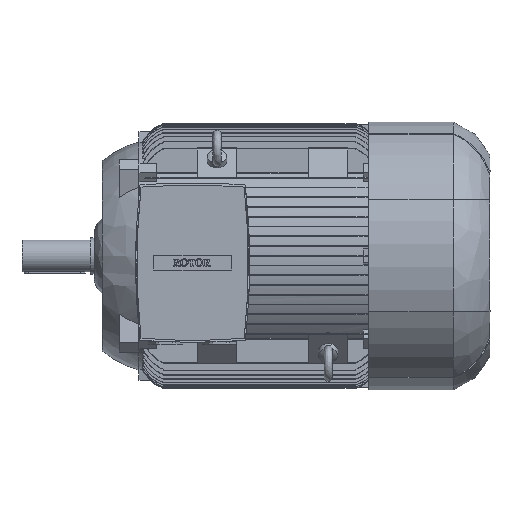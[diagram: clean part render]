
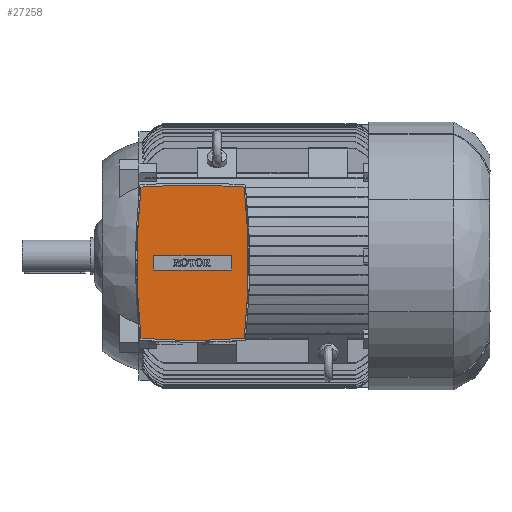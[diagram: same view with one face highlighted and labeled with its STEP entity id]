
A CAD part, top view. The second image highlights one B-rep face of the part: STEP entity #27258.
In plain terms, the highlighted planar face has unit normal (0, 0, 1).
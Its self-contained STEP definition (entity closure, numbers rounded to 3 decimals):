
#1411 = EDGE_CURVE ( 'NONE', #35650, #35641, #18320, .T. ) ;
#1427 = EDGE_CURVE ( 'NONE', #35646, #35649, #18353, .T. ) ;
#1429 = EDGE_CURVE ( 'NONE', #35647, #35646, #18355, .T. ) ;
#2347 = AXIS2_PLACEMENT_3D ( 'NONE', #24885, #24886, #24887 ) ;
#4457 = ORIENTED_EDGE ( 'NONE', *, *, #1427, .T. ) ;
#4512 = ORIENTED_EDGE ( 'NONE', *, *, #1411, .F. ) ;
#4614 = ORIENTED_EDGE ( 'NONE', *, *, #26357, .T. ) ;
#4615 = ORIENTED_EDGE ( 'NONE', *, *, #26294, .T. ) ;
#4894 = ORIENTED_EDGE ( 'NONE', *, *, #26375, .F. ) ;
#4895 = ORIENTED_EDGE ( 'NONE', *, *, #26464, .F. ) ;
#4896 = ORIENTED_EDGE ( 'NONE', *, *, #26324, .F. ) ;
#5828 = LINE ( 'NONE', #29451, #5834 ) ;
#5834 = VECTOR ( 'NONE', #29452, 1000. ) ;
#5871 = CIRCLE ( 'NONE', #6224, 1403.6 ) ;
#5918 = LINE ( 'NONE', #29680, #5921 ) ;
#5921 = VECTOR ( 'NONE', #29681, 1000. ) ;
#5942 = CIRCLE ( 'NONE', #6236, 1403.6 ) ;
#6066 = CIRCLE ( 'NONE', #6252, 1439.94 ) ;
#6224 = AXIS2_PLACEMENT_3D ( 'NONE', #29544, #29545, #29546 ) ;
#6236 = AXIS2_PLACEMENT_3D ( 'NONE', #25124, #25125, #25126 ) ;
#6252 = AXIS2_PLACEMENT_3D ( 'NONE', #25560, #25561, #25562 ) ;
#6625 = AXIS2_PLACEMENT_3D ( 'NONE', #47876, #47877, #47878 ) ;
#18320 = CIRCLE ( 'NONE', #2347, 1439.94 ) ;
#18353 = LINE ( 'NONE', #24941, #18356 ) ;
#18355 = LINE ( 'NONE', #24939, #18360 ) ;
#18356 = VECTOR ( 'NONE', #24943, 1000. ) ;
#18360 = VECTOR ( 'NONE', #24946, 1000. ) ;
#24885 = CARTESIAN_POINT ( 'NONE',  ( 110., -1295.44, 433. ) ) ;
#24886 = DIRECTION ( 'NONE',  ( 0., 0., -1. ) ) ;
#24887 = DIRECTION ( 'NONE',  ( -1., 0., 0. ) ) ;
#24939 = CARTESIAN_POINT ( 'NONE',  ( 30., -14.5, 433. ) ) ;
#24941 = CARTESIAN_POINT ( 'NONE',  ( 110., 0.5, 433. ) ) ;
#24943 = DIRECTION ( 'NONE',  ( 1., 0., 0. ) ) ;
#24946 = DIRECTION ( 'NONE',  ( 0., 1., 0. ) ) ;
#25124 = CARTESIAN_POINT ( 'NONE',  ( -1179.1, -14.5, 433. ) ) ;
#25125 = DIRECTION ( 'NONE',  ( 0., 0., -1. ) ) ;
#25126 = DIRECTION ( 'NONE',  ( -1., 0., 0. ) ) ;
#25560 = CARTESIAN_POINT ( 'NONE',  ( 110., 1266.44, 433. ) ) ;
#25561 = DIRECTION ( 'NONE',  ( 0., 0., -1. ) ) ;
#25562 = DIRECTION ( 'NONE',  ( -1., 0., 0. ) ) ;
#26294 = EDGE_CURVE ( 'NONE', #35649, #35645, #5828, .T. ) ;
#26324 = EDGE_CURVE ( 'NONE', #35651, #35650, #5871, .T. ) ;
#26357 = EDGE_CURVE ( 'NONE', #35645, #35647, #5918, .T. ) ;
#26375 = EDGE_CURVE ( 'NONE', #35641, #35652, #5942, .T. ) ;
#26464 = EDGE_CURVE ( 'NONE', #35652, #35651, #6066, .T. ) ;
#27258 = ADVANCED_FACE ( 'NONE', ( #57500, #57509 ), #47869, .T. ) ;
#29451 = CARTESIAN_POINT ( 'NONE',  ( 190., -14.5, 433. ) ) ;
#29452 = DIRECTION ( 'NONE',  ( 0., -1., 0. ) ) ;
#29544 = CARTESIAN_POINT ( 'NONE',  ( 1399.1, -14.5, 433. ) ) ;
#29545 = DIRECTION ( 'NONE',  ( 0., 0., -1. ) ) ;
#29546 = DIRECTION ( 'NONE',  ( -1., 0., 0. ) ) ;
#29680 = CARTESIAN_POINT ( 'NONE',  ( 110., -29.5, 433. ) ) ;
#29681 = DIRECTION ( 'NONE',  ( -1., 0., 0. ) ) ;
#33055 = EDGE_LOOP ( 'NONE', ( #4512, #4896, #4895, #4894 ) ) ;
#33060 = EDGE_LOOP ( 'NONE', ( #4457, #4615, #4614, #41926 ) ) ;
#35641 = VERTEX_POINT ( 'NONE', #57550 ) ;
#35645 = VERTEX_POINT ( 'NONE', #57555 ) ;
#35646 = VERTEX_POINT ( 'NONE', #57556 ) ;
#35647 = VERTEX_POINT ( 'NONE', #57557 ) ;
#35649 = VERTEX_POINT ( 'NONE', #57559 ) ;
#35650 = VERTEX_POINT ( 'NONE', #57560 ) ;
#35651 = VERTEX_POINT ( 'NONE', #57561 ) ;
#35652 = VERTEX_POINT ( 'NONE', #57562 ) ;
#41926 = ORIENTED_EDGE ( 'NONE', *, *, #1429, .T. ) ;
#47869 = PLANE ( 'NONE',  #6625 ) ;
#47876 = CARTESIAN_POINT ( 'NONE',  ( 110., -14.5, 433. ) ) ;
#47877 = DIRECTION ( 'NONE',  ( 0., 0., 1. ) ) ;
#47878 = DIRECTION ( 'NONE',  ( 1., 0., 0. ) ) ;
#57500 = FACE_OUTER_BOUND ( 'NONE', #33055, .T. ) ;
#57509 = FACE_BOUND ( 'NONE', #33060, .T. ) ;
#57550 = CARTESIAN_POINT ( 'NONE',  ( 215.904, 140.6, 433. ) ) ;
#57555 = CARTESIAN_POINT ( 'NONE',  ( 190., -29.5, 433. ) ) ;
#57556 = CARTESIAN_POINT ( 'NONE',  ( 30., 0.5, 433. ) ) ;
#57557 = CARTESIAN_POINT ( 'NONE',  ( 30., -29.5, 433. ) ) ;
#57559 = CARTESIAN_POINT ( 'NONE',  ( 190., 0.5, 433. ) ) ;
#57560 = CARTESIAN_POINT ( 'NONE',  ( 4.096, 140.6, 433. ) ) ;
#57561 = CARTESIAN_POINT ( 'NONE',  ( 4.096, -169.6, 433. ) ) ;
#57562 = CARTESIAN_POINT ( 'NONE',  ( 215.904, -169.6, 433. ) ) ;
